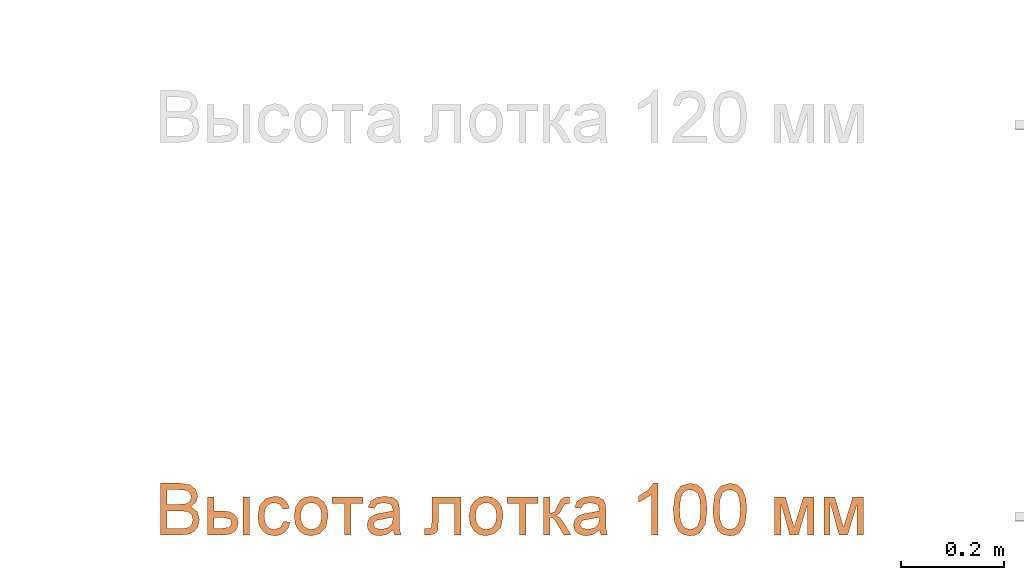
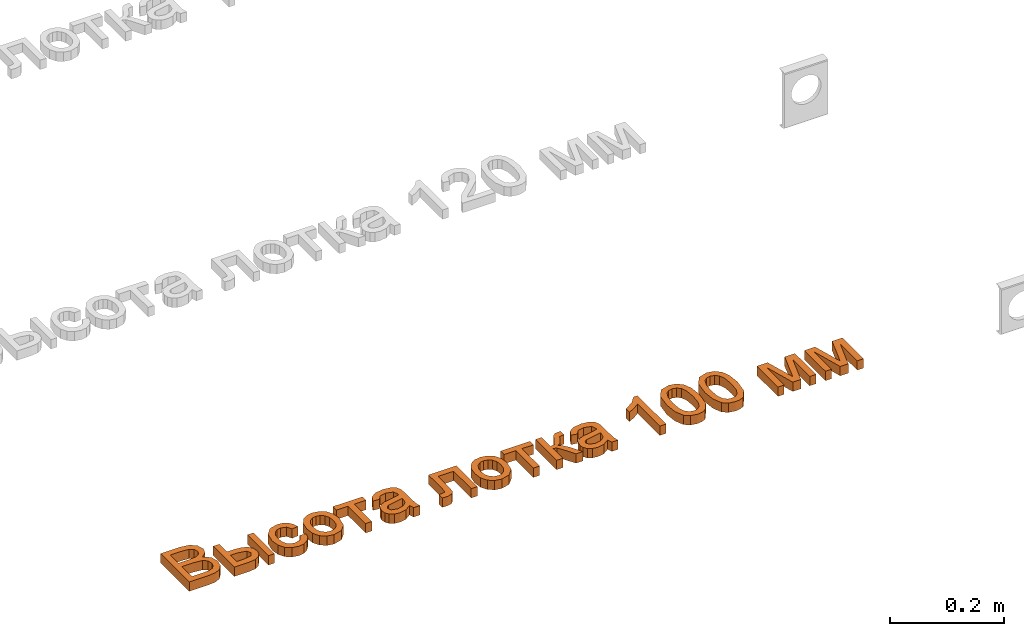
# One storey, part 11 of 71: 1 proxy.
"""IFC2X3 building model written with IfcOpenShell, lengths in millimetres."""

import ifcopenshell
import ifcopenshell.guid

model = None  # the IFC model being written
_history = None  # IfcOwnerHistory: only IFC2X3 demands one
_inside = {}  # id of a spatial element -> (the spatial element, [elements in it])
_under = {}  # id of a project, library or spatial element -> (it, [spatial elements below it])
_declared = {}  # id of a project -> (the project, [libraries it declares])
_typed = {}  # id of a type object -> (the type object, [elements of that type])
_made_of = {}  # id of a material, layer set ... -> (it, [elements and type objects made of it])


def new_model(schema):
    """Start an empty IFC model of exactly this schema.

    Asked for "IFC4X3", IfcOpenShell would pick the latest addendum, in which some entities
    have other attributes; the version numbers below select the first issue.
    IFC2X3 requires an IfcOwnerHistory on every rooted entity: one is made here for all.
    """
    global model, _history
    if schema == "IFC4X3":
        model = ifcopenshell.file(schema_version=(4, 3, 0, 0))
    else:
        model = ifcopenshell.file(schema=schema)
    _inside.clear()
    _under.clear()
    _declared.clear()
    _typed.clear()
    _made_of.clear()
    _history = None
    if model.schema == "IFC2X3":
        org = make("IfcOrganization", Name="unknown")
        user = make(
            "IfcPersonAndOrganization",
            ThePerson=make("IfcPerson", FamilyName="unknown"),
            TheOrganization=org,
        )
        app = make(
            "IfcApplication",
            ApplicationDeveloper=org,
            Version="unknown",
            ApplicationFullName="unknown",
            ApplicationIdentifier="unknown",
        )
        _history = make(
            "IfcOwnerHistory",
            OwningUser=user,
            OwningApplication=app,
            ChangeAction="ADDED",
            CreationDate=0,
        )
    return model


def make(cls, **values):
    """One entity of the class cls with the attributes given. An attribute that is None is left unset."""
    return model.create_entity(
        cls, **{name: value for name, value in values.items() if value is not None}
    )


def entity(cls, *values):
    """Any entity or typed value of the class cls, its attributes in the order of the schema. None: left unset."""
    e = model.create_entity(cls)
    for i, value in enumerate(values):
        if value is not None:
            e[i] = value
    return e


def rooted(cls, **values):
    """An entity with a GlobalId (a new one), such as an element, a storey or a relation."""
    return make(cls, GlobalId=ifcopenshell.guid.new(), OwnerHistory=_history, **values)


def si_unit(unit_type, name, prefix=None):
    """IfcSIUnit, for example si_unit("LENGTHUNIT", "METRE", prefix="MILLI")."""
    return make("IfcSIUnit", UnitType=unit_type, Prefix=prefix, Name=name)


def converted_unit(unit_type, name, factor, base, dimensions=None, offset=None):
    """IfcConversionBasedUnit, such as the inch: factor (a typed value) times the base unit."""
    return make(
        "IfcConversionBasedUnit"
        if offset is None
        else "IfcConversionBasedUnitWithOffset",
        ConversionOffset=offset,
        Dimensions=None
        if dimensions is None
        else entity("IfcDimensionalExponents", *dimensions),
        UnitType=unit_type,
        Name=name,
        ConversionFactor=make(
            "IfcMeasureWithUnit", ValueComponent=factor, UnitComponent=base
        ),
    )


def derived_unit(unit_type, elements):
    """IfcDerivedUnit: a product of units, each with its exponent."""
    return make(
        "IfcDerivedUnit",
        Elements=[
            make("IfcDerivedUnitElement", Unit=unit, Exponent=power)
            for unit, power in elements
        ],
        UnitType=unit_type,
    )


def assignment(units):
    """IfcUnitAssignment: the units of a project."""
    return None if units is None else make("IfcUnitAssignment", Units=units)


def point(xyz):
    """IfcCartesianPoint."""
    return None if xyz is None else make("IfcCartesianPoint", Coordinates=xyz)


def direction(xyz):
    """IfcDirection."""
    return None if xyz is None else make("IfcDirection", DirectionRatios=xyz)


def frame(location, z_axis=None, x_axis=None):
    """IfcAxis2Placement3D, a coordinate frame: its origin and axes. An axis left out is left unset."""
    return make(
        "IfcAxis2Placement3D",
        Location=point(location),
        Axis=direction(z_axis),
        RefDirection=direction(x_axis),
    )


def frame_2d(location, x_axis=None):
    """IfcAxis2Placement2D, a coordinate frame in the plane: its origin and x axis."""
    return make(
        "IfcAxis2Placement2D", Location=point(location), RefDirection=direction(x_axis)
    )


def origin():
    """The frame at (0, 0, 0) with its axes left unset."""
    return frame((0.0, 0.0, 0.0))


def place(relative_to, where):
    """IfcLocalPlacement: puts the frame where relative to a parent placement (None: the world)."""
    return make(
        "IfcLocalPlacement", PlacementRelTo=relative_to, RelativePlacement=where
    )


def context(
    kind, dimensions, precision=None, world=None, true_north=None, identifier=None
):
    """IfcGeometricRepresentationContext, for example the 3D "Model" context."""
    return make(
        "IfcGeometricRepresentationContext",
        ContextIdentifier=identifier,
        ContextType=kind,
        CoordinateSpaceDimension=dimensions,
        Precision=precision,
        WorldCoordinateSystem=world,
        TrueNorth=true_north,
    )


def subcontext(parent, identifier, kind, view, scale=None):
    """IfcGeometricRepresentationSubContext, for example "Body" below "Model"."""
    return make(
        "IfcGeometricRepresentationSubContext",
        ContextIdentifier=identifier,
        ContextType=kind,
        ParentContext=parent,
        TargetScale=scale,
        TargetView=view,
    )


def project(units=None, contexts=None):
    """IfcProject with its units and contexts."""
    return rooted(
        "IfcProject",
        Name="project",
        RepresentationContexts=contexts,
        UnitsInContext=assignment(units),
    )


def spatial(cls, under=None, at=None, **own):
    """A site, building, storey or space (cls), placed at a placement, below another one or the project."""
    s = rooted(cls, ObjectPlacement=at, **own)
    if under is not None:
        _under.setdefault(under.id(), (under, []))[1].append(s)
    return s


def polyline(points):
    """IfcPolyline through the points."""
    return make("IfcPolyline", Points=[point(p) for p in points])


def profile(cls, at=None, kind="AREA", **sizes):
    """A parametric profile (cls). Its sizes go by their IFC names, for example OverallWidth=200.0."""
    return make(cls, ProfileType=kind, Position=at, **sizes)


def rectangle(**sizes):
    """IfcRectangleProfileDef."""
    return profile("IfcRectangleProfileDef", **sizes)


def outline(outer, holes=None, kind="AREA"):
    """IfcArbitraryClosedProfileDef: a profile drawn as a closed curve; with holes, ...WithVoids."""
    if holes is None:
        return make("IfcArbitraryClosedProfileDef", ProfileType=kind, OuterCurve=outer)
    return make(
        "IfcArbitraryProfileDefWithVoids",
        ProfileType=kind,
        OuterCurve=outer,
        InnerCurves=holes,
    )


def extrude(swept, where, along, depth):
    """IfcExtrudedAreaSolid: the profile swept, set in the frame where, extruded along a direction by depth."""
    return make(
        "IfcExtrudedAreaSolid",
        SweptArea=swept,
        Position=where,
        ExtrudedDirection=direction(along),
        Depth=depth,
    )


def shape(context_of_items, identifier, shape_type, items):
    """IfcShapeRepresentation: the items that make up one representation, for example the "Body"."""
    return make(
        "IfcShapeRepresentation",
        ContextOfItems=context_of_items,
        RepresentationIdentifier=identifier,
        RepresentationType=shape_type,
        Items=items,
    )


def made_of(thing, what):
    """Note that an element or type object is made of a material, layer set ...; save() writes the relation."""
    if what is not None:
        _made_of.setdefault(what.id(), (what, []))[1].append(thing)
    return thing


def element(
    cls,
    number,
    at=None,
    inside=None,
    cuts=None,
    type_object=None,
    material=None,
    context=None,
    identifier="Body",
    shape_type=None,
    held_by="IfcProductDefinitionShape",
    body=None,
    shapes=None,
    **own,
):
    """One element of the class cls, such as IfcWall. Its Tag is "e" and its number.

    at: its placement. inside: the storey or other place that contains it. cuts: it is an
    opening in that element (IfcRelVoidsElement). A single representation is given by context,
    identifier, shape_type and body (its items); several are given by shapes. held_by: the class
    of the entity that holds the representations. save() writes the other relations.
    """
    e = rooted(cls, Tag="e%d" % number, ObjectPlacement=at, **own)
    if body is not None:
        shapes = [shape(context, identifier, shape_type, body)]
    if shapes is not None:
        e.Representation = make(held_by, Representations=shapes)
    if inside is not None:
        _inside.setdefault(inside.id(), (inside, []))[1].append(e)
    if cuts is not None:
        rooted(
            "IfcRelVoidsElement", RelatingBuildingElement=cuts, RelatedOpeningElement=e
        )
    if type_object is not None:
        _typed.setdefault(type_object.id(), (type_object, []))[1].append(e)
    return made_of(e, material)


def aggregate(whole, parts):
    """IfcRelAggregates: a whole, such as a stair, and the parts it consists of."""
    return rooted("IfcRelAggregates", RelatingObject=whole, RelatedObjects=parts)


def save(model, path):
    """Write the relations noted so far, then the file.

    IfcRelAggregates (storeys below a building ...), IfcRelContainedInSpatialStructure (elements
    in a storey), IfcRelDefinesByType, IfcRelAssociatesMaterial and IfcRelDeclares: one each for
    every whole, place, type object, material and project.
    """
    for whole, parts in _under.values():
        aggregate(whole, parts)
    for where, things in _inside.values():
        rooted(
            "IfcRelContainedInSpatialStructure",
            RelatedElements=things,
            RelatingStructure=where,
        )
    for kind, things in _typed.values():
        rooted("IfcRelDefinesByType", RelatedObjects=things, RelatingType=kind)
    for what, things in _made_of.values():
        rooted("IfcRelAssociatesMaterial", RelatedObjects=things, RelatingMaterial=what)
    for by, libraries in _declared.values():
        rooted("IfcRelDeclares", RelatingContext=by, RelatedDefinitions=libraries)
    model.write(path)


model = new_model("IFC2X3")

# Units and contexts
model_context = context("Model", 3, precision=0.01, world=origin(), true_north=direction((6.12303176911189e-17, 1.0)))
body_context = subcontext(model_context, "Body", "Model", "MODEL_VIEW")
ifc_project = project(units=[si_unit("LENGTHUNIT", "METRE", prefix="MILLI"), si_unit("AREAUNIT", "SQUARE_METRE"), si_unit("VOLUMEUNIT", "CUBIC_METRE"), converted_unit("PLANEANGLEUNIT", "DEGREE", entity("IfcRatioMeasure", 0.0174532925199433), si_unit("PLANEANGLEUNIT", "RADIAN"), dimensions=[0, 0, 0, 0, 0, 0, 0]), si_unit("MASSUNIT", "GRAM", prefix="KILO"), derived_unit("MASSDENSITYUNIT", [(si_unit("MASSUNIT", "GRAM", prefix="KILO"), 1), (si_unit("LENGTHUNIT", "METRE"), -3)]), si_unit("TIMEUNIT", "SECOND"), si_unit("FREQUENCYUNIT", "HERTZ"), si_unit("THERMODYNAMICTEMPERATUREUNIT", "DEGREE_CELSIUS"), derived_unit("THERMALTRANSMITTANCEUNIT", [(si_unit("MASSUNIT", "GRAM", prefix="KILO"), 1), (si_unit("THERMODYNAMICTEMPERATUREUNIT", "KELVIN"), -1), (si_unit("TIMEUNIT", "SECOND"), -3)]), derived_unit("VOLUMETRICFLOWRATEUNIT", [(si_unit("LENGTHUNIT", "METRE"), 3), (si_unit("TIMEUNIT", "SECOND"), -1)]), si_unit("ELECTRICCURRENTUNIT", "AMPERE"), si_unit("ELECTRICVOLTAGEUNIT", "VOLT"), si_unit("POWERUNIT", "WATT"), si_unit("FORCEUNIT", "NEWTON", prefix="KILO"), si_unit("ILLUMINANCEUNIT", "LUX"), si_unit("LUMINOUSFLUXUNIT", "LUMEN"), si_unit("LUMINOUSINTENSITYUNIT", "CANDELA"), derived_unit("USERDEFINED", [(si_unit("MASSUNIT", "GRAM", prefix="KILO"), -1), (si_unit("LENGTHUNIT", "METRE"), -2), (si_unit("TIMEUNIT", "SECOND"), 3), (si_unit("LUMINOUSFLUXUNIT", "LUMEN"), 1)]), derived_unit("LINEARVELOCITYUNIT", [(si_unit("LENGTHUNIT", "METRE"), 1), (si_unit("TIMEUNIT", "SECOND"), -1)]), si_unit("PRESSUREUNIT", "PASCAL"), derived_unit("USERDEFINED", [(si_unit("LENGTHUNIT", "METRE"), -2), (si_unit("MASSUNIT", "GRAM", prefix="KILO"), 1), (si_unit("TIMEUNIT", "SECOND"), -2)])], contexts=[model_context])

# Site, building, storey
site_placement = place(None, origin())
site = spatial("IfcSite", under=ifc_project, at=site_placement, Name="Default", CompositionType="ELEMENT")
building_placement = place(site_placement, origin())
building = spatial("IfcBuilding", under=site, at=building_placement, Name="Наименование здания", CompositionType="ELEMENT")
storey_placement = place(building_placement, origin())
storey = spatial("IfcBuildingStorey", under=building, at=storey_placement, Name="Этаж 01", CompositionType="ELEMENT", Elevation=0.0)

# Proxy
proxy_placement = place(storey_placement, origin())
element("IfcBuildingElementProxy", 1, at=proxy_placement, inside=storey, Name="Текст модели:100 мм Arial", ObjectType="Текст модели:100 мм Arial", context=body_context, shape_type="SweptSolid", body=[
    extrude(outline(polyline([(-52.8068326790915, -48.6909338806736), (-14.7678343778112, -48.6909338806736), (1.33313427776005, -46.9618885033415), (12.2592295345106, -41.860591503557), (19.5800812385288, -32.2466086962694), (22.5353999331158, -18.7453394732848), (18.2066551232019, -3.12261741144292), (5.83355735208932, 6.24611073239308), (16.0238886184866, 15.1365922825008), (19.3961402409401, 26.8720279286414), (15.3862264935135, 39.7233722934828), (4.30071570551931, 48.810057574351), (-14.4735287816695, 51.7653762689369), (-52.8068326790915, 51.7653762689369), (-52.8068326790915, -48.6909338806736)]), holes=[polyline([(-40.2497939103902, 10.9550002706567), (-40.2497939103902, 39.208337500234), (-19.0597909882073, 39.208337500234), (-2.92203413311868, 37.8962250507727), (4.31297843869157, 33.0524454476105), (6.83910147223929, 24.8609396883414), (4.12903744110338, 16.6816966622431), (-3.92757825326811, 12.0341207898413), (-17.3184828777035, 10.9550002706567), (-40.2497939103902, 10.9550002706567)]), polyline([(-40.2497939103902, -36.1338951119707), (-40.2497939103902, -1.60203849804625), (-15.7243275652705, -1.60203849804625), (-0.211970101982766, -3.2820329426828), (7.57486546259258, -9.10683119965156), (9.97836116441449, -18.8679668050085), (7.93048472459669, -27.3292526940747), (2.70656039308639, -32.9087962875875), (-5.17837703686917, -35.6433857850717), (-14.4980542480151, -36.1338951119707), (-40.2497939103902, -36.1338951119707)])]), frame((4191.86628439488, -23912.8921872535, 0.0)), (0.0, 0.0, 1.0), 20.0),
    extrude(outline(polyline([(-42.3988715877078, -34.5139341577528), (31.3737311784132, -34.5139341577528), (31.3737311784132, -3.73447389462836), (29.6538828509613, 9.31613988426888), (24.4943378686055, 18.2526066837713), (16.9129030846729, 23.4121516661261), (7.92738535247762, 25.1319999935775), (-1.94104916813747, 23.081057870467), (-9.424382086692, 16.9282315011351), (-14.1424686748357, 6.98622058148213), (-15.7151642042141, -6.43227519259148), (-15.7151642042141, -21.956895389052), (-42.3988715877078, -21.956895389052), (-42.3988715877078, -34.5139341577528)]), holes=[polyline([(18.8166924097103, -21.956895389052), (-3.1581254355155, -21.956895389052), (-3.1581254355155, -7.41329384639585), (0.226388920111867, 8.88387853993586), (7.95191081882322, 12.5749612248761), (16.1802047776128, 7.59629155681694), (18.8166924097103, -9.05650009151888), (18.8166924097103, -21.956895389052)])]), frame((4264.61191694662, -23930.2093899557, 0.0), z_axis=(0.0, 0.0, 1.0), x_axis=(0.0, -1.0, 0.0)), (0.0, 0.0, 1.0), 20.0),
    extrude(outline(polyline([(0.267683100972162, -20.7200562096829), (-4.02278247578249, -32.6253015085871), (7.51957889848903, -34.5647704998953), (18.0242916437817, -32.524098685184), (26.8500141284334, -26.8719753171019), (33.3554047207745, -17.9770896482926), (37.2076783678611, -4.95154901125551), (35.3403176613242, 7.71415747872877), (27.6846262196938, 19.1676933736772), (14.1719076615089, 28.5567222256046), (-6.16200624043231, 34.5864889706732), (-23.4110955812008, 30.2307841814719), (-35.1302422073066, 17.0254849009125), (-38.5714296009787, 6.87231136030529), (-38.3156698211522, -2.77330902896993), (-34.4593562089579, -11.5597521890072), (-27.0988821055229, -19.1353940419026), (-20.0099089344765, -8.6525785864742), (-25.7552259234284, 0.801697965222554), (-23.9806627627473, 11.2483121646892), (-18.9208808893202, 17.7794646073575), (-11.853830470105, 21.4126833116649), (-2.81100512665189, 21.5312059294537), (8.17610151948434, 17.5182701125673), (18.0468481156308, 10.9639331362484), (23.3470531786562, 3.65828147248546), (24.6053297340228, -4.07586677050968), (22.3502908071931, -11.9156934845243), (13.5558525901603, -20.7200562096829), (0.267683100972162, -20.7200562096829)])), frame((4359.29348811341, -23925.2723225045, 0.0), z_axis=(0.0, 0.0, -1.0), x_axis=(-0.453109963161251, -0.891454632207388, 0.0)), (0.0, 0.0, -1.0), 20.0),
    extrude(outline(polyline([(-2.34029740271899, -31.6984909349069), (14.2731811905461, -31.6984909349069), (27.1869525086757, -26.5873672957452), (35.9909592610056, -17.1811275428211), (40.275144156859, -4.29577920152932), (38.1491713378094, 13.1690451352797), (27.2514955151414, 26.648536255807), (5.67797919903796, 33.7446283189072), (-10.1280544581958, 33.6081083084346), (-22.8059382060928, 28.3900569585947), (-31.6389568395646, 18.9754531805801), (-35.910395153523, 6.24927588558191), (-35.5406401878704, -5.97109031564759), (-30.8535887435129, -16.7835237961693), (-19.5870121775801, -26.5692340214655), (-2.34029740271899, -31.6984909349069)]), holes=[polyline([(-0.642949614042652, -19.2566729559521), (-11.6948097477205, -16.259966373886), (-19.0989004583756, -10.8341828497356), (-22.9822632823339, -3.67356758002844), (-23.4719397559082, 4.52763423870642), (-20.7783225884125, 12.2046648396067), (-15.0781786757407, 18.0357050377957), (-6.56600936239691, 21.286328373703), (4.5636840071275, 21.2221083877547), (15.8675929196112, 18.1905150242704), (23.3961896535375, 12.747498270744), (27.3267847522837, 5.59272509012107), (27.8366887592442, -2.57413755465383), (25.1317228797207, -10.3331599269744), (19.4311586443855, -16.1672368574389), (10.8134498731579, -19.3753979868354), (-0.642949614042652, -19.2566729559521)])]), frame((4429.76838821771, -23922.6689724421, 0.0), z_axis=(0.0, 0.0, 1.0), x_axis=(0.137105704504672, -0.990556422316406, 0.0)), (0.0, 0.0, 1.0), 20.0),
    extrude(outline(polyline([(-24.7216700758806, -29.8229670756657), (-12.1646313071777, -29.8229670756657), (-12.1646313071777, -6.27851938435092), (49.0509326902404, -6.27851938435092), (49.0509326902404, 6.27851938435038), (-12.1646313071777, 6.27851938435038), (-12.1646313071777, 29.8229670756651), (-24.7216700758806, 29.8229670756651), (-24.7216700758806, -29.8229670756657)])), frame((4501.64394616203, -23912.5321884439, 0.0), z_axis=(0.0, 0.0, 1.0), x_axis=(0.0, -1.0, 0.0)), (0.0, 0.0, 1.0), 20.0),
    extrude(outline(polyline([(32.0508237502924, 7.88266535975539), (41.9780345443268, 7.88266535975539), (45.9489188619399, 19.7953183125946), (35.1414436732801, 20.7608946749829), (14.2438893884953, 27.0545912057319), (-0.577126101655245, 31.9949297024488), (-11.1945882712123, 34.8877809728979), (-20.4974705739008, 33.9299602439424), (-28.5323068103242, 27.547073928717), (-35.4619652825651, 13.8157249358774), (-38.304404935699, -2.69989645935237), (-34.9462156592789, -15.349334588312), (-25.0306383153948, -24.3807697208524), (-19.5706723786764, -12.9644773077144), (-25.7868125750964, -4.50695904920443), (-24.0611841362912, 8.30922519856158), (-16.2279943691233, 20.3304570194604), (-6.33956174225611, 20.6794605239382), (-3.71040200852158, 19.7255176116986), (-6.5024300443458, -2.30048133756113), (-8.14662433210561, -13.2049019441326), (-7.01817966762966, -22.8490321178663), (-2.17478658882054, -31.1204151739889), (6.48825595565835, -36.541602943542), (15.001033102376, -37.7020395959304), (22.9495879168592, -35.3200906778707), (29.6378522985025, -29.3899394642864), (34.3697581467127, -19.9057692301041), (36.2737661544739, -6.3605554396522), (32.0508237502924, 7.88266535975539)]), holes=[polyline([(8.22551784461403, 15.8244339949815), (11.5759514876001, 14.6300664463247), (20.1614376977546, 9.67421668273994), (24.4696920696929, -0.396473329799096), (23.3024692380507, -13.3987927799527), (17.2491973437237, -22.9498553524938), (9.62153186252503, -24.3497471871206), (5.58084684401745, -21.193204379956), (3.98706417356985, -15.5044472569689), (5.47226797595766, -4.61166010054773), (8.22551784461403, 15.8244339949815)])]), frame((4571.92970417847, -23924.2519785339, 0.0), z_axis=(0.0, 0.0, 1.0), x_axis=(0.316227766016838, -0.948683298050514, 0.0)), (0.0, 0.0, 1.0), 20.0),
    extrude(outline(polyline([(-49.3689973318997, 12.5447760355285), (-49.3689973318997, -43.9618984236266), (24.3300290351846, -43.9618984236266), (24.3300290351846, -31.4048596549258), (-36.8119585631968, -31.4048596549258), (-36.8119585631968, -0.0122627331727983), (-1.61791435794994, -0.0122627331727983), (14.6179443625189, 0.833865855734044), (21.472812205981, 5.48144172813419), (24.4036054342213, 16.4688506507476), (23.7659433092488, 26.6714446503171), (11.8465666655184, 26.6714446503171), (11.8465666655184, 21.0551128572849), (11.0740144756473, 15.3774673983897), (8.62146784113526, 13.1088617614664), (-2.32915288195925, 12.5447760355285), (-49.3689973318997, 12.5447760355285)])), frame((4677.43022619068, -23937.1795156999, 0.0), z_axis=(0.0, 0.0, -1.0), x_axis=(0.0, -1.0, 0.0)), (0.0, 0.0, -1.0), 20.0),
    extrude(outline(polyline([(-2.34029740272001, -31.6984909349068), (14.2731811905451, -31.6984909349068), (27.1869525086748, -26.5873672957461), (35.9909592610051, -17.1811275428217), (40.2751441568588, -4.29577920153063), (38.1491713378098, 13.1690451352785), (27.2514955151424, 26.6485362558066), (5.67797919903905, 33.744628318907), (-10.1280544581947, 33.6081083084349), (-22.8059382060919, 28.3900569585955), (-31.638956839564, 18.9754531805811), (-35.9103951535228, 6.24927588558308), (-35.5406401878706, -5.97109031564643), (-30.8535887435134, -16.7835237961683), (-19.5870121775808, -26.5692340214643), (-2.34029740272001, -31.6984909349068)]), holes=[polyline([(-0.642949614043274, -19.2566729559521), (-11.694809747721, -16.2599663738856), (-19.098900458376, -10.834182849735), (-22.982263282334, -3.6735675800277), (-23.4719397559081, 4.52763423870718), (-20.778322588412, 12.2046648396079), (-15.0781786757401, 18.0357050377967), (-6.56600936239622, 21.2863283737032), (4.56368400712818, 21.2221083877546), (15.8675929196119, 18.1905150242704), (23.396189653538, 12.7474982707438), (27.3267847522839, 5.59272509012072), (27.8366887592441, -2.57413755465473), (25.1317228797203, -10.3331599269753), (19.431158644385, -16.1672368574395), (10.8134498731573, -19.3753979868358), (-0.642949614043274, -19.2566729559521)])]), frame((4768.80843497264, -23922.6689724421, 0.0), z_axis=(0.0, 0.0, 1.0), x_axis=(0.137105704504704, -0.990556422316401, 0.0)), (0.0, 0.0, 1.0), 20.0),
    extrude(outline(polyline([(-24.7216700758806, -29.8229670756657), (-12.1646313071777, -29.8229670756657), (-12.1646313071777, -6.27851938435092), (49.0509326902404, -6.27851938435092), (49.0509326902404, 6.27851938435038), (-12.1646313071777, 6.27851938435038), (-12.1646313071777, 29.8229670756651), (-24.7216700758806, 29.8229670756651), (-24.7216700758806, -29.8229670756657)])), frame((4840.68399291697, -23912.5321884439, 0.0), z_axis=(0.0, 0.0, 1.0), x_axis=(0.0, -1.0, 0.0)), (0.0, 0.0, 1.0), 20.0),
    extrude(outline(polyline([(-30.3295712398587, -29.5353037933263), (43.4430315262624, -29.5353037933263), (43.4430315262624, -16.9782650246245), (8.91117491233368, -16.9782650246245), (11.2288314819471, -10.2337617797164), (20.8060260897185, -3.61188586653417), (43.4430315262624, 9.55828956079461), (43.4430315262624, 23.8321109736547), (20.3155167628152, 10.3921554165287), (10.0209522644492, 2.61758258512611), (5.13425309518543, -5.30414304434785), (0.75645735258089, 1.79597946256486), (-8.18307513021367, 6.86048826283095), (-16.4481572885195, 11.1769703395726), (-17.7725324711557, 17.3083369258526), (-17.6989560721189, 20.6928512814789), (-30.3295712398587, 20.6928512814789), (-30.3295712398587, 18.289355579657), (-29.3730780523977, 9.10456843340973), (-25.6819953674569, 4.05232236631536), (-14.3389671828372, -1.67437402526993), (-1.1933172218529, -8.56603006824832), (1.06302568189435, -16.9782650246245), (-30.3295712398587, -16.9782650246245), (-30.3295712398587, -29.5353037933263)])), frame((4911.02967270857, -23918.1400896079, 0.0), z_axis=(0.0, 0.0, 1.0), x_axis=(0.0, -1.0, 0.0)), (0.0, 0.0, 1.0), 20.0),
    extrude(rectangle(XDim=73.7726027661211, YDim=12.5570387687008, at=frame_2d((-2.16715534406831e-12, 0.0), x_axis=(1.0, 0.0))), frame((4305.44021540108, -23924.6968197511, 0.0), z_axis=(0.0, 0.0, 1.0), x_axis=(0.0, -1.0, 0.0)), (0.0, 0.0, 1.0), 20.0),
    extrude(outline(polyline([(32.0508237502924, 7.88266535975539), (41.9780345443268, 7.88266535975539), (45.9489188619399, 19.7953183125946), (35.1414436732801, 20.7608946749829), (14.2438893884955, 27.0545912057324), (-0.577126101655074, 31.9949297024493), (-11.1945882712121, 34.8877809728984), (-20.4974705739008, 33.9299602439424), (-28.5323068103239, 27.547073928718), (-35.4619652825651, 13.8157249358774), (-38.3044049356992, -2.69989645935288), (-34.9462156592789, -15.349334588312), (-25.0306383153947, -24.3807697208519), (-19.5706723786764, -12.9644773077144), (-25.7868125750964, -4.50695904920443), (-24.0611841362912, 8.30922519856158), (-16.2279943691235, 20.3304570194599), (-6.33956174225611, 20.6794605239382), (-3.71040200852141, 19.7255176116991), (-6.5024300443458, -2.30048133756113), (-8.14662433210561, -13.2049019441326), (-7.01817966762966, -22.8490321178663), (-2.17478658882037, -31.1204151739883), (6.48825595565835, -36.541602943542), (15.0010331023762, -37.7020395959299), (22.9495879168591, -35.3200906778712), (29.6378522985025, -29.3899394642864), (34.3697581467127, -19.9057692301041), (36.2737661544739, -6.3605554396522), (32.0508237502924, 7.88266535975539)]), holes=[polyline([(8.22551784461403, 15.8244339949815), (11.5759514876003, 14.6300664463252), (20.1614376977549, 9.67421668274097), (24.4696920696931, -0.396473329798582), (23.3024692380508, -13.3987927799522), (17.2491973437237, -22.9498553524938), (9.62153186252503, -24.3497471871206), (5.58084684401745, -21.193204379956), (3.98706417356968, -15.5044472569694), (5.47226797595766, -4.61166010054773), (8.22551784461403, 15.8244339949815)])]), frame((4972.18531493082, -23924.2519785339, 0.0), z_axis=(0.0, 0.0, 1.0), x_axis=(0.316227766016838, -0.948683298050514, 0.0)), (0.0, 0.0, 1.0), 20.0),
    extrude(outline(polyline([(-63.8793021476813, -16.918484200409), (36.5770080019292, -16.918484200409), (36.5770080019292, -8.82508030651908), (23.2106288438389, 2.34626961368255), (11.4629304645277, 20.7526321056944), (-0.407395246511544, 20.7526321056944), (5.93243780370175, 7.53340574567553), (14.4059864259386, -4.36144543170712), (-63.8793021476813, -4.36144543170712), (-63.8793021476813, -16.918484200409)])), frame((5085.89369301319, -23897.7038189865, 0.0), z_axis=(0.0, 0.0, 1.0), x_axis=(0.0, 1.0, 0.0)), (0.0, 0.0, 1.0), 20.0),
    extrude(outline(polyline([(-7.0288431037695, -33.3490673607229), (17.5323805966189, -33.3490673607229), (35.1984171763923, -27.6137612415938), (43.3439841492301, -18.4876517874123), (47.0516941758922, -5.75150665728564), (46.7162020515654, 4.48638208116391), (43.4465778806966, 13.0955287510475), (27.9444305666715, 25.6659118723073), (-0.31433837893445, 32.2325535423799), (-24.0296505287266, 32.3678288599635), (-39.4143020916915, 28.0260881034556), (-49.7293680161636, 18.9002174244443), (-54.4436715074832, 4.63998875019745), (-50.8676582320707, -14.1301059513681), (-35.4058547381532, -26.7333390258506), (-7.0288431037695, -33.3490673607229)]), holes=[polyline([(-5.77428774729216, -20.8548320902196), (-25.0157644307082, -17.356286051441), (-36.7257089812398, -11.5717922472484), (-41.0962588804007, -4.77599682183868), (-41.9669219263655, 3.21464792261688), (-39.2244253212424, 11.2791292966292), (-32.8654063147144, 17.2229259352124), (-20.9698370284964, 20.294750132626), (-1.61768958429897, 19.7433141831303), (17.8514140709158, 16.2707701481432), (28.7803640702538, 10.714159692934), (33.5546988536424, 3.61815959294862), (34.5599568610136, -4.47255337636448), (31.9421230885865, -12.1923199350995), (25.8471825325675, -18.1754808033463), (14.025067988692, -21.402747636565), (-5.77428774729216, -20.8548320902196)])]), frame((5166.5266818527, -23915.7599441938, 0.0), z_axis=(0.0, 0.0, 1.0), x_axis=(0.101851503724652, -0.994799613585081, 0.0)), (0.0, 0.0, 1.0), 20.0),
    extrude(outline(polyline([(-7.0288431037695, -33.3490673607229), (17.5323805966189, -33.3490673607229), (35.1984171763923, -27.6137612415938), (43.3439841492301, -18.4876517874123), (47.0516941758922, -5.75150665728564), (46.7162020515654, 4.48638208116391), (43.4465778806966, 13.0955287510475), (27.9444305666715, 25.6659118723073), (-0.31433837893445, 32.2325535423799), (-24.0296505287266, 32.3678288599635), (-39.4143020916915, 28.0260881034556), (-49.7293680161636, 18.9002174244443), (-54.4436715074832, 4.63998875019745), (-50.8676582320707, -14.1301059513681), (-35.4058547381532, -26.7333390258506), (-7.0288431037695, -33.3490673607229)]), holes=[polyline([(-5.77428774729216, -20.8548320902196), (-25.0157644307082, -17.356286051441), (-36.7257089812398, -11.5717922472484), (-41.0962588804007, -4.77599682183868), (-41.9669219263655, 3.21464792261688), (-39.2244253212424, 11.2791292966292), (-32.8654063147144, 17.2229259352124), (-20.9698370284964, 20.294750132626), (-1.61768958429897, 19.7433141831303), (17.8514140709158, 16.2707701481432), (28.7803640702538, 10.714159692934), (33.5546988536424, 3.61815959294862), (34.5599568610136, -4.47255337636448), (31.9421230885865, -12.1923199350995), (25.8471825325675, -18.1754808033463), (14.025067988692, -21.402747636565), (-5.77428774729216, -20.8548320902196)])]), frame((5243.438544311, -23915.7599441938, 0.0), z_axis=(0.0, 0.0, 1.0), x_axis=(0.101851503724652, -0.994799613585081, 0.0)), (0.0, 0.0, 1.0), 20.0),
    extrude(outline(polyline([(-40.5839870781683, -38.4502715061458), (33.1886156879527, -38.4502715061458), (33.1886156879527, -25.893232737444), (-29.0570178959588, -25.893232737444), (33.1886156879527, -8.62730443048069), (33.1886156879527, 7.85380895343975), (-26.2120637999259, 25.904552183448), (33.1886156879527, 25.904552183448), (33.1886156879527, 38.4615909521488), (-40.5839870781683, 38.4615909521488), (-40.5839870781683, 17.7620973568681), (18.4733358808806, -0.190544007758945), (-40.5839870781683, -16.8433356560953), (-40.5839870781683, -38.4502715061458)])), frame((5367.28914655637, -23928.3945054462, 0.0), z_axis=(0.0, 0.0, 1.0), x_axis=(0.0, -1.0, 0.0)), (0.0, 0.0, 1.0), 20.0),
    extrude(outline(polyline([(-40.5839870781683, -38.4502715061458), (33.1886156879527, -38.4502715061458), (33.1886156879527, -25.8932327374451), (-29.0570178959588, -25.8932327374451), (33.1886156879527, -8.62730443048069), (33.1886156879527, 7.85380895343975), (-26.2120637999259, 25.904552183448), (33.1886156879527, 25.904552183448), (33.1886156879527, 38.4615909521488), (-40.5839870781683, 38.4615909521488), (-40.5839870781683, 17.7620973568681), (18.4733358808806, -0.190544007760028), (-40.5839870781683, -16.8433356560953), (-40.5839870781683, -38.4502715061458)])), frame((5463.03656716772, -23928.3945054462, 0.0), z_axis=(0.0, 0.0, 1.0), x_axis=(0.0, -1.0, 0.0)), (0.0, 0.0, 1.0), 20.0),
])

save(model, "model.ifc")
